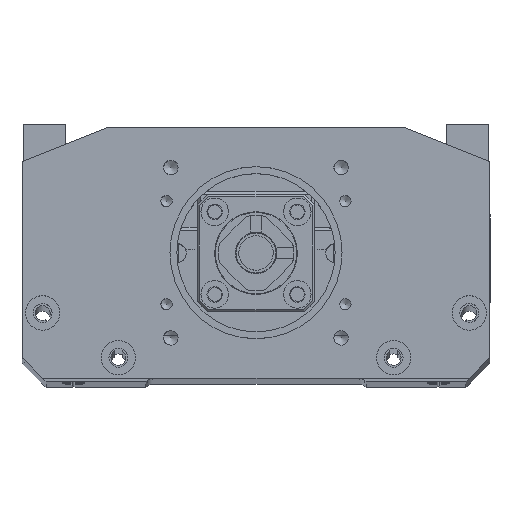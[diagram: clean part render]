
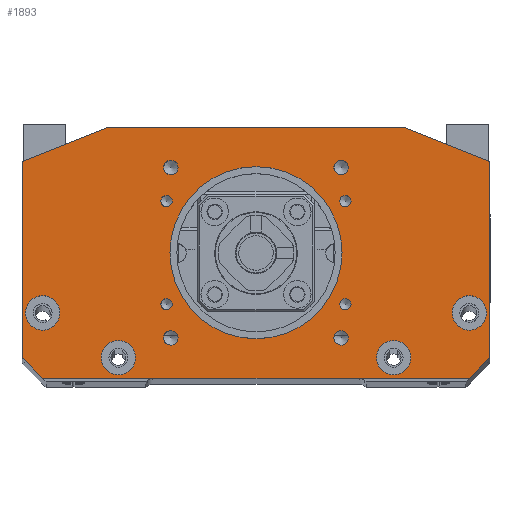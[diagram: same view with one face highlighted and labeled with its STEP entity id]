
A CAD part, top view. The second image highlights one B-rep face of the part: STEP entity #1893.
In plain terms, the highlighted planar face has unit normal (0, 0, 1).
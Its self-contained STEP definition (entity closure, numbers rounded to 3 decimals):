
#491=FACE_BOUND('',#3750,.T.);
#492=FACE_BOUND('',#3751,.T.);
#493=FACE_BOUND('',#3752,.T.);
#494=FACE_BOUND('',#3753,.T.);
#495=FACE_BOUND('',#3754,.T.);
#496=FACE_BOUND('',#3755,.T.);
#497=FACE_BOUND('',#3756,.T.);
#498=FACE_BOUND('',#3757,.T.);
#499=FACE_BOUND('',#3758,.T.);
#500=FACE_BOUND('',#3759,.T.);
#501=FACE_BOUND('',#3760,.T.);
#502=FACE_BOUND('',#3761,.T.);
#503=FACE_BOUND('',#3762,.T.);
#504=FACE_BOUND('',#3763,.T.);
#1893=ADVANCED_FACE('9',(#491,#492,#493,#494,#495,#496,#497,#498,#499,#500,
#501,#502,#503,#504),#2506,.T.);
#2506=PLANE('',#15368);
#3750=EDGE_LOOP('',(#8481));
#3751=EDGE_LOOP('',(#8482));
#3752=EDGE_LOOP('',(#8483));
#3753=EDGE_LOOP('',(#8484));
#3754=EDGE_LOOP('',(#8485));
#3755=EDGE_LOOP('',(#8486));
#3756=EDGE_LOOP('',(#8487));
#3757=EDGE_LOOP('',(#8488));
#3758=EDGE_LOOP('',(#8489));
#3759=EDGE_LOOP('',(#8490));
#3760=EDGE_LOOP('',(#8491));
#3761=EDGE_LOOP('',(#8492));
#3762=EDGE_LOOP('',(#8493));
#3763=EDGE_LOOP('',(#8494,#8495,#8496,#8497,#8498,#8499,#8500,#8501));
#4769=LINE('',#22009,#5766);
#4775=LINE('',#22020,#5772);
#4783=LINE('',#22036,#5780);
#4791=LINE('',#22052,#5788);
#4801=LINE('',#22070,#5798);
#5053=LINE('',#24080,#6050);
#5054=LINE('',#24082,#6051);
#5055=LINE('',#24083,#6052);
#5766=VECTOR('',#17191,1.);
#5772=VECTOR('',#17203,1.);
#5780=VECTOR('',#17219,1.);
#5788=VECTOR('',#17235,1.);
#5798=VECTOR('',#17251,1.);
#6050=VECTOR('',#18381,1.);
#6051=VECTOR('',#18384,1.);
#6052=VECTOR('',#18385,1.);
#8481=ORIENTED_EDGE('',*,*,#12932,.F.);
#8482=ORIENTED_EDGE('',*,*,#12934,.F.);
#8483=ORIENTED_EDGE('',*,*,#12936,.F.);
#8484=ORIENTED_EDGE('',*,*,#12938,.F.);
#8485=ORIENTED_EDGE('',*,*,#12940,.F.);
#8486=ORIENTED_EDGE('',*,*,#12942,.F.);
#8487=ORIENTED_EDGE('',*,*,#12944,.F.);
#8488=ORIENTED_EDGE('',*,*,#12946,.F.);
#8489=ORIENTED_EDGE('',*,*,#12948,.F.);
#8490=ORIENTED_EDGE('',*,*,#12950,.F.);
#8491=ORIENTED_EDGE('',*,*,#12954,.F.);
#8492=ORIENTED_EDGE('',*,*,#12958,.F.);
#8493=ORIENTED_EDGE('',*,*,#12962,.F.);
#8494=ORIENTED_EDGE('',*,*,#12370,.F.);
#8495=ORIENTED_EDGE('',*,*,#12971,.T.);
#8496=ORIENTED_EDGE('',*,*,#12970,.F.);
#8497=ORIENTED_EDGE('',*,*,#12972,.T.);
#8498=ORIENTED_EDGE('',*,*,#12406,.F.);
#8499=ORIENTED_EDGE('',*,*,#12395,.T.);
#8500=ORIENTED_EDGE('',*,*,#12386,.F.);
#8501=ORIENTED_EDGE('',*,*,#12377,.T.);
#10852=VERTEX_POINT('',#22008);
#10853=VERTEX_POINT('',#22010);
#10855=VERTEX_POINT('',#22021);
#10859=VERTEX_POINT('',#22037);
#10863=VERTEX_POINT('',#22053);
#10868=VERTEX_POINT('',#22071);
#11198=VERTEX_POINT('',#23975);
#11201=VERTEX_POINT('',#23982);
#11204=VERTEX_POINT('',#23989);
#11207=VERTEX_POINT('',#23996);
#11210=VERTEX_POINT('',#24003);
#11213=VERTEX_POINT('',#24010);
#11216=VERTEX_POINT('',#24017);
#11219=VERTEX_POINT('',#24024);
#11222=VERTEX_POINT('',#24031);
#11224=VERTEX_POINT('',#24036);
#11227=VERTEX_POINT('',#24045);
#11230=VERTEX_POINT('',#24054);
#11233=VERTEX_POINT('',#24063);
#11237=VERTEX_POINT('',#24075);
#11239=VERTEX_POINT('',#24079);
#12370=EDGE_CURVE('',#10852,#10853,#4769,.T.);
#12377=EDGE_CURVE('',#10855,#10853,#4775,.T.);
#12386=EDGE_CURVE('',#10855,#10859,#4783,.T.);
#12395=EDGE_CURVE('',#10863,#10859,#4791,.T.);
#12406=EDGE_CURVE('',#10863,#10868,#4801,.T.);
#12932=EDGE_CURVE('',#11198,#11198,#14202,.T.);
#12934=EDGE_CURVE('',#11201,#11201,#14204,.T.);
#12936=EDGE_CURVE('',#11204,#11204,#14206,.T.);
#12938=EDGE_CURVE('',#11207,#11207,#14208,.T.);
#12940=EDGE_CURVE('',#11210,#11210,#14210,.T.);
#12942=EDGE_CURVE('',#11213,#11213,#14212,.T.);
#12944=EDGE_CURVE('',#11216,#11216,#14214,.T.);
#12946=EDGE_CURVE('',#11219,#11219,#14216,.T.);
#12948=EDGE_CURVE('',#11222,#11222,#14218,.T.);
#12950=EDGE_CURVE('',#11224,#11224,#14220,.T.);
#12954=EDGE_CURVE('',#11227,#11227,#14224,.T.);
#12958=EDGE_CURVE('',#11230,#11230,#14228,.T.);
#12962=EDGE_CURVE('',#11233,#11233,#14232,.T.);
#12970=EDGE_CURVE('',#11239,#11237,#5053,.T.);
#12971=EDGE_CURVE('',#10852,#11237,#5054,.T.);
#12972=EDGE_CURVE('',#11239,#10868,#5055,.T.);
#14202=CIRCLE('',#15306,1.65);
#14204=CIRCLE('',#15310,1.65);
#14206=CIRCLE('',#15314,1.65);
#14208=CIRCLE('',#15318,1.65);
#14210=CIRCLE('',#15322,2.1);
#14212=CIRCLE('',#15326,2.1);
#14214=CIRCLE('',#15330,2.1);
#14216=CIRCLE('',#15334,2.1);
#14218=CIRCLE('',#15338,25.);
#14220=CIRCLE('',#15341,5.);
#14224=CIRCLE('',#15347,5.);
#14228=CIRCLE('',#15353,5.);
#14232=CIRCLE('',#15359,5.);
#15306=AXIS2_PLACEMENT_3D('',#23974,#18256,#18257);
#15310=AXIS2_PLACEMENT_3D('',#23981,#18264,#18265);
#15314=AXIS2_PLACEMENT_3D('',#23988,#18272,#18273);
#15318=AXIS2_PLACEMENT_3D('',#23995,#18280,#18281);
#15322=AXIS2_PLACEMENT_3D('',#24002,#18288,#18289);
#15326=AXIS2_PLACEMENT_3D('',#24009,#18296,#18297);
#15330=AXIS2_PLACEMENT_3D('',#24016,#18304,#18305);
#15334=AXIS2_PLACEMENT_3D('',#24023,#18312,#18313);
#15338=AXIS2_PLACEMENT_3D('',#24030,#18320,#18321);
#15341=AXIS2_PLACEMENT_3D('',#24035,#18326,#18327);
#15347=AXIS2_PLACEMENT_3D('',#24044,#18338,#18339);
#15353=AXIS2_PLACEMENT_3D('',#24053,#18350,#18351);
#15359=AXIS2_PLACEMENT_3D('',#24062,#18362,#18363);
#15368=AXIS2_PLACEMENT_3D('',#24084,#18386,#18387);
#17191=DIRECTION('',(0.,-1.,0.));
#17203=DIRECTION('',(0.707,0.707,0.));
#17219=DIRECTION('',(-1.,0.,0.));
#17235=DIRECTION('',(0.707,-0.707,0.));
#17251=DIRECTION('',(0.,1.,0.));
#18256=DIRECTION('',(0.,0.,1.));
#18257=DIRECTION('',(1.,0.,0.));
#18264=DIRECTION('',(0.,0.,1.));
#18265=DIRECTION('',(1.,0.,0.));
#18272=DIRECTION('',(0.,0.,1.));
#18273=DIRECTION('',(1.,0.,0.));
#18280=DIRECTION('',(0.,0.,1.));
#18281=DIRECTION('',(1.,0.,0.));
#18288=DIRECTION('',(0.,0.,1.));
#18289=DIRECTION('',(1.,0.,0.));
#18296=DIRECTION('',(0.,0.,1.));
#18297=DIRECTION('',(1.,0.,0.));
#18304=DIRECTION('',(0.,0.,1.));
#18305=DIRECTION('',(1.,0.,0.));
#18312=DIRECTION('',(0.,0.,1.));
#18313=DIRECTION('',(1.,0.,0.));
#18320=DIRECTION('',(0.,0.,1.));
#18321=DIRECTION('',(1.,0.,0.));
#18326=DIRECTION('',(0.,0.,1.));
#18327=DIRECTION('',(1.,0.,0.));
#18338=DIRECTION('',(0.,0.,1.));
#18339=DIRECTION('',(1.,0.,0.));
#18350=DIRECTION('',(0.,0.,1.));
#18351=DIRECTION('',(1.,0.,0.));
#18362=DIRECTION('',(0.,0.,1.));
#18363=DIRECTION('',(1.,0.,0.));
#18381=DIRECTION('',(1.,0.,0.));
#18384=DIRECTION('',(-0.928,0.371,0.));
#18385=DIRECTION('',(-0.928,-0.371,0.));
#18386=DIRECTION('',(0.,0.,1.));
#18387=DIRECTION('',(-1.,0.,0.));
#22008=CARTESIAN_POINT('',(68.,63.,180.));
#22009=CARTESIAN_POINT('',(68.,0.,180.));
#22010=CARTESIAN_POINT('',(68.,6.,180.));
#22020=CARTESIAN_POINT('',(49.25,-12.75,180.));
#22021=CARTESIAN_POINT('',(62.,0.,180.));
#22036=CARTESIAN_POINT('',(68.,0.,180.));
#22037=CARTESIAN_POINT('',(-62.,0.,180.));
#22052=CARTESIAN_POINT('',(-49.25,-12.75,180.));
#22053=CARTESIAN_POINT('',(-68.,6.,180.));
#22070=CARTESIAN_POINT('',(-68.,0.,180.));
#22071=CARTESIAN_POINT('',(-68.,63.,180.));
#23974=CARTESIAN_POINT('',(25.981,51.5,180.));
#23975=CARTESIAN_POINT('',(27.631,51.5,180.));
#23981=CARTESIAN_POINT('',(25.981,21.5,180.));
#23982=CARTESIAN_POINT('',(27.631,21.5,180.));
#23988=CARTESIAN_POINT('',(-25.981,21.5,180.));
#23989=CARTESIAN_POINT('',(-24.331,21.5,180.));
#23995=CARTESIAN_POINT('',(-25.981,51.5,180.));
#23996=CARTESIAN_POINT('',(-24.331,51.5,180.));
#24002=CARTESIAN_POINT('',(-24.749,61.249,180.));
#24003=CARTESIAN_POINT('',(-22.649,61.249,180.));
#24009=CARTESIAN_POINT('',(24.749,61.249,180.));
#24010=CARTESIAN_POINT('',(26.849,61.249,180.));
#24016=CARTESIAN_POINT('',(24.749,11.751,180.));
#24017=CARTESIAN_POINT('',(26.849,11.751,180.));
#24023=CARTESIAN_POINT('',(-24.749,11.751,180.));
#24024=CARTESIAN_POINT('',(-22.649,11.751,180.));
#24030=CARTESIAN_POINT('',(0.,36.5,180.));
#24031=CARTESIAN_POINT('',(25.,36.5,180.));
#24035=CARTESIAN_POINT('',(-62.,19.,180.));
#24036=CARTESIAN_POINT('',(-57.,19.,180.));
#24044=CARTESIAN_POINT('',(62.,19.,180.));
#24045=CARTESIAN_POINT('',(67.,19.,180.));
#24053=CARTESIAN_POINT('',(-40.,6.,180.));
#24054=CARTESIAN_POINT('',(-35.,6.,180.));
#24062=CARTESIAN_POINT('',(40.,6.,180.));
#24063=CARTESIAN_POINT('',(45.,6.,180.));
#24075=CARTESIAN_POINT('',(43.,73.,180.));
#24079=CARTESIAN_POINT('',(-43.,73.,180.));
#24080=CARTESIAN_POINT('',(68.,73.,180.));
#24082=CARTESIAN_POINT('',(18.517,82.793,180.));
#24083=CARTESIAN_POINT('',(-18.517,82.793,180.));
#24084=CARTESIAN_POINT('',(0.,36.5,180.));
